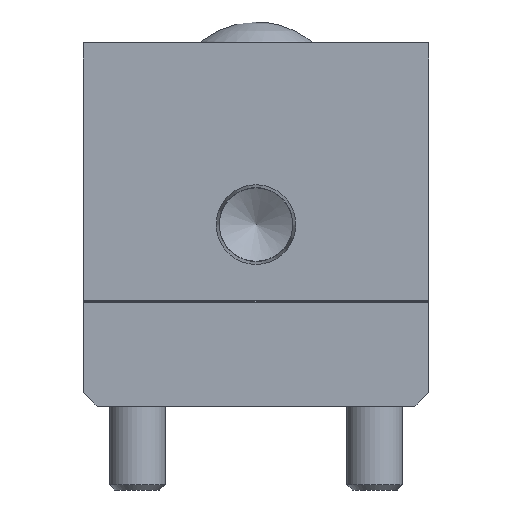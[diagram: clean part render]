
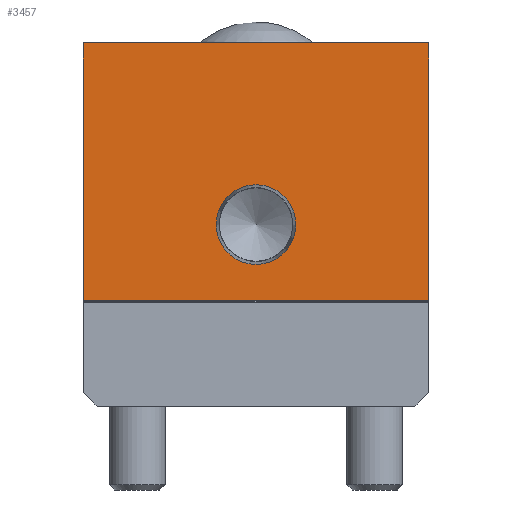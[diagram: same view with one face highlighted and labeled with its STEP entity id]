
A CAD part, front view. The second image highlights one B-rep face of the part: STEP entity #3457.
In plain terms, the highlighted planar face has unit normal (0, -1, 0).
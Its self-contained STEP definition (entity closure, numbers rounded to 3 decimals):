
#206=FACE_BOUND('',#741,.T.);
#301=CIRCLE('',#3682,5.704);
#487=FACE_OUTER_BOUND('',#740,.T.);
#740=EDGE_LOOP('',(#2483,#2484,#2485,#2486));
#741=EDGE_LOOP('',(#2487));
#1070=LINE('',#5139,#1338);
#1073=LINE('',#5144,#1341);
#1075=LINE('',#5152,#1343);
#1089=LINE('',#5188,#1357);
#1338=VECTOR('',#4149,36.9);
#1341=VECTOR('',#4154,49.5);
#1343=VECTOR('',#4162,36.9);
#1357=VECTOR('',#4206,49.5);
#1589=VERTEX_POINT('',#5136);
#1590=VERTEX_POINT('',#5138);
#1591=VERTEX_POINT('',#5142);
#1594=VERTEX_POINT('',#5150);
#1598=VERTEX_POINT('',#5164);
#1913=EDGE_CURVE('',#1590,#1589,#1070,.T.);
#1916=EDGE_CURVE('',#1589,#1591,#1073,.T.);
#1920=EDGE_CURVE('',#1594,#1591,#1075,.T.);
#1925=EDGE_CURVE('',#1598,#1598,#301,.T.);
#1938=EDGE_CURVE('',#1594,#1590,#1089,.T.);
#2483=ORIENTED_EDGE('',*,*,#1938,.T.);
#2484=ORIENTED_EDGE('',*,*,#1913,.T.);
#2485=ORIENTED_EDGE('',*,*,#1916,.T.);
#2486=ORIENTED_EDGE('',*,*,#1920,.F.);
#2487=ORIENTED_EDGE('',*,*,#1925,.T.);
#3126=PLANE('',#3715);
#3457=ADVANCED_FACE('',(#487,#206),#3126,.T.);
#3682=AXIS2_PLACEMENT_3D('',#5165,#4177,#4178);
#3715=AXIS2_PLACEMENT_3D('',#5226,#4260,#4261);
#4149=DIRECTION('',(0.,0.,1.));
#4154=DIRECTION('',(-1.,0.,0.));
#4162=DIRECTION('',(0.,0.,1.));
#4177=DIRECTION('center_axis',(0.,1.,0.));
#4178=DIRECTION('ref_axis',(1.,0.,0.));
#4206=DIRECTION('',(1.,0.,0.));
#4260=DIRECTION('center_axis',(0.,-1.,0.));
#4261=DIRECTION('ref_axis',(0.,0.,-1.));
#5136=CARTESIAN_POINT('',(24.75,0.,52.));
#5138=CARTESIAN_POINT('',(24.75,0.,15.1));
#5139=CARTESIAN_POINT('',(24.75,0.,0.));
#5142=CARTESIAN_POINT('',(-24.75,0.,52.));
#5144=CARTESIAN_POINT('',(24.75,0.,52.));
#5150=CARTESIAN_POINT('',(-24.75,0.,15.1));
#5152=CARTESIAN_POINT('',(-24.75,0.,0.));
#5164=CARTESIAN_POINT('',(5.704,0.,26.));
#5165=CARTESIAN_POINT('Origin',(0.,0.,26.));
#5188=CARTESIAN_POINT('',(24.75,0.,15.1));
#5226=CARTESIAN_POINT('Origin',(24.75,0.,0.));
